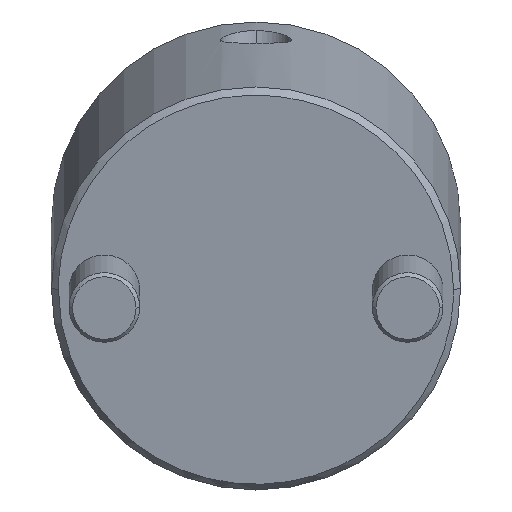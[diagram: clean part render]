
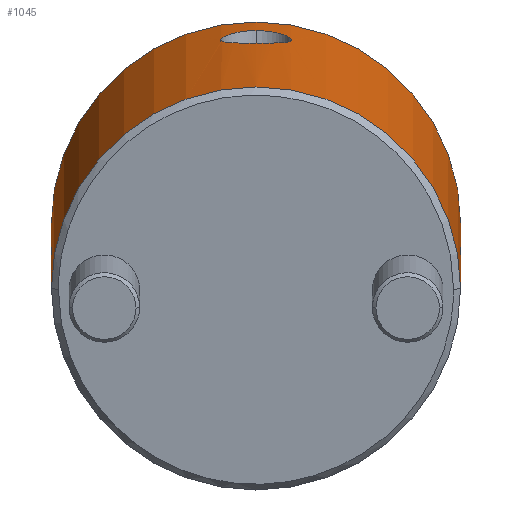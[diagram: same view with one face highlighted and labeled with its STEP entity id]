
A CAD part, front view. The second image highlights one B-rep face of the part: STEP entity #1045.
In plain terms, the highlighted cylindrical face has radius 29 mm (diameter 58 mm), a partial arc.
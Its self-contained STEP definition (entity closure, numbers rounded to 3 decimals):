
#778=CARTESIAN_POINT('Vertex',(0.,29.,1.)) ;
#781=CARTESIAN_POINT('Axis2P3D Location',(0.,0.,1.)) ;
#785=CARTESIAN_POINT('Vertex',(0.,-29.,1.)) ;
#937=CARTESIAN_POINT('Axis2P3D Location',(0.,0.,-2.75)) ;
#942=CARTESIAN_POINT('Line Origine',(0.,29.,-2.75)) ;
#946=CARTESIAN_POINT('Vertex',(0.,29.,54.)) ;
#949=CARTESIAN_POINT('Axis2P3D Location',(0.,0.,54.)) ;
#953=CARTESIAN_POINT('Vertex',(0.,-29.,54.)) ;
#956=CARTESIAN_POINT('Line Origine',(0.,-29.,-2.75)) ;
#968=CARTESIAN_POINT('Control Point',(29.,0.,46.955)) ;
#969=CARTESIAN_POINT('Control Point',(29.,0.427,46.955)) ;
#970=CARTESIAN_POINT('Control Point',(28.992,0.85,46.909)) ;
#971=CARTESIAN_POINT('Control Point',(28.977,1.272,46.813)) ;
#972=CARTESIAN_POINT('Control Point',(28.943,1.883,46.602)) ;
#973=CARTESIAN_POINT('Control Point',(28.897,2.455,46.291)) ;
#974=CARTESIAN_POINT('Control Point',(28.88,2.642,46.176)) ;
#975=CARTESIAN_POINT('Control Point',(28.845,3.003,45.926)) ;
#976=CARTESIAN_POINT('Control Point',(28.808,3.336,45.636)) ;
#977=CARTESIAN_POINT('Control Point',(28.789,3.495,45.482)) ;
#978=CARTESIAN_POINT('Control Point',(28.732,3.952,44.989)) ;
#979=CARTESIAN_POINT('Control Point',(28.677,4.325,44.429)) ;
#980=CARTESIAN_POINT('Control Point',(28.645,4.532,44.028)) ;
#981=CARTESIAN_POINT('Control Point',(28.604,4.777,43.404)) ;
#982=CARTESIAN_POINT('Control Point',(28.58,4.919,42.751)) ;
#983=CARTESIAN_POINT('Control Point',(28.573,4.955,42.53)) ;
#984=CARTESIAN_POINT('Control Point',(28.563,5.016,41.981)) ;
#985=CARTESIAN_POINT('Control Point',(28.565,5.003,41.43)) ;
#986=CARTESIAN_POINT('Control Point',(28.571,4.968,41.099)) ;
#987=CARTESIAN_POINT('Control Point',(28.596,4.826,40.344)) ;
#988=CARTESIAN_POINT('Control Point',(28.642,4.545,39.632)) ;
#989=CARTESIAN_POINT('Control Point',(28.675,4.341,39.243)) ;
#990=CARTESIAN_POINT('Control Point',(28.729,3.974,38.702)) ;
#991=CARTESIAN_POINT('Control Point',(28.786,3.524,38.229)) ;
#992=CARTESIAN_POINT('Control Point',(28.805,3.366,38.08)) ;
#993=CARTESIAN_POINT('Control Point',(28.842,3.033,37.799)) ;
#994=CARTESIAN_POINT('Control Point',(28.878,2.671,37.556)) ;
#995=CARTESIAN_POINT('Control Point',(28.895,2.482,37.444)) ;
#996=CARTESIAN_POINT('Control Point',(28.941,1.907,37.143)) ;
#997=CARTESIAN_POINT('Control Point',(28.976,1.287,36.939)) ;
#998=CARTESIAN_POINT('Control Point',(28.992,0.861,36.847)) ;
#999=CARTESIAN_POINT('Control Point',(29.,0.432,36.801)) ;
#1000=CARTESIAN_POINT('Control Point',(29.,0.,36.801)) ;
#1001=CARTESIAN_POINT('Vertex',(29.,0.,46.955)) ;
#1003=CARTESIAN_POINT('Vertex',(29.,0.,36.801)) ;
#1007=CARTESIAN_POINT('Control Point',(29.,0.,36.801)) ;
#1008=CARTESIAN_POINT('Control Point',(29.,-0.219,36.801)) ;
#1009=CARTESIAN_POINT('Control Point',(28.998,-0.438,36.813)) ;
#1010=CARTESIAN_POINT('Control Point',(28.994,-0.655,36.836)) ;
#1011=CARTESIAN_POINT('Control Point',(28.982,-1.087,36.907)) ;
#1012=CARTESIAN_POINT('Control Point',(28.962,-1.51,37.024)) ;
#1013=CARTESIAN_POINT('Control Point',(28.95,-1.717,37.093)) ;
#1014=CARTESIAN_POINT('Control Point',(28.924,-2.123,37.255)) ;
#1015=CARTESIAN_POINT('Control Point',(28.892,-2.509,37.459)) ;
#1016=CARTESIAN_POINT('Control Point',(28.875,-2.697,37.573)) ;
#1017=CARTESIAN_POINT('Control Point',(28.822,-3.237,37.94)) ;
#1018=CARTESIAN_POINT('Control Point',(28.764,-3.711,38.391)) ;
#1019=CARTESIAN_POINT('Control Point',(28.725,-3.994,38.727)) ;
#1020=CARTESIAN_POINT('Control Point',(28.672,-4.357,39.271)) ;
#1021=CARTESIAN_POINT('Control Point',(28.629,-4.626,39.868)) ;
#1022=CARTESIAN_POINT('Control Point',(28.616,-4.705,40.071)) ;
#1023=CARTESIAN_POINT('Control Point',(28.593,-4.84,40.485)) ;
#1024=CARTESIAN_POINT('Control Point',(28.578,-4.93,40.914)) ;
#1025=CARTESIAN_POINT('Control Point',(28.572,-4.963,41.133)) ;
#1026=CARTESIAN_POINT('Control Point',(28.561,-5.029,41.793)) ;
#1027=CARTESIAN_POINT('Control Point',(28.568,-4.987,42.456)) ;
#1028=CARTESIAN_POINT('Control Point',(28.581,-4.912,42.898)) ;
#1029=CARTESIAN_POINT('Control Point',(28.623,-4.67,43.756)) ;
#1030=CARTESIAN_POINT('Control Point',(28.688,-4.251,44.551)) ;
#1031=CARTESIAN_POINT('Control Point',(28.725,-4.001,44.922)) ;
#1032=CARTESIAN_POINT('Control Point',(28.802,-3.424,45.61)) ;
#1033=CARTESIAN_POINT('Control Point',(28.875,-2.721,46.15)) ;
#1034=CARTESIAN_POINT('Control Point',(28.909,-2.344,46.379)) ;
#1035=CARTESIAN_POINT('Control Point',(28.958,-1.663,46.697)) ;
#1036=CARTESIAN_POINT('Control Point',(28.987,-0.938,46.878)) ;
#1037=CARTESIAN_POINT('Control Point',(28.996,-0.626,46.93)) ;
#1038=CARTESIAN_POINT('Control Point',(29.,-0.314,46.955)) ;
#1039=CARTESIAN_POINT('Control Point',(29.,0.,46.955)) ;
#782=DIRECTION('Axis2P3D Direction',(0.,0.,1.)) ;
#938=DIRECTION('Axis2P3D Direction',(0.,-0.,1.)) ;
#939=DIRECTION('Axis2P3D XDirection',(0.,-1.,0.)) ;
#943=DIRECTION('Vector Direction',(0.,0.,1.)) ;
#950=DIRECTION('Axis2P3D Direction',(0.,-0.,1.)) ;
#957=DIRECTION('Vector Direction',(0.,0.,1.)) ;
#783=AXIS2_PLACEMENT_3D('Circle Axis2P3D',#781,#782,$) ;
#940=AXIS2_PLACEMENT_3D('Cylinder Axis2P3D',#937,#938,#939) ;
#951=AXIS2_PLACEMENT_3D('Circle Axis2P3D',#949,#950,$) ;
#962=ORIENTED_EDGE('',*,*,#948,.F.) ;
#963=ORIENTED_EDGE('',*,*,#955,.T.) ;
#964=ORIENTED_EDGE('',*,*,#960,.T.) ;
#965=ORIENTED_EDGE('',*,*,#787,.F.) ;
#1042=ORIENTED_EDGE('',*,*,#1005,.T.) ;
#1043=ORIENTED_EDGE('',*,*,#1040,.T.) ;
#1044=FACE_BOUND('',#1041,.T.) ;
#944=VECTOR('Line Direction',#943,1.) ;
#958=VECTOR('Line Direction',#957,1.) ;
#1045=ADVANCED_FACE('MANIFOLD_SOLID_BREP #1144',(#966,#1044),#941,.T.) ;
#967=B_SPLINE_CURVE_WITH_KNOTS('',5,(#968,#969,#970,#971,#972,#973,#974,#975,#976,#977,#978,#979,#980,#981,#982,#983,#984,#985,#986,#987,#988,#989,#990,#991,#992,#993,#994,#995,#996,#997,#998,#999,#1000),.UNSPECIFIED.,.F.,.U.,(6,3,3,3,3,3,3,3,3,3,6),(0.,3.07,4.614,6.168,9.302,10.865,13.188,16.279,17.83,19.379,22.437),.UNSPECIFIED.) ;
#1006=B_SPLINE_CURVE_WITH_KNOTS('',5,(#1007,#1008,#1009,#1010,#1011,#1012,#1013,#1014,#1015,#1016,#1017,#1018,#1019,#1020,#1021,#1022,#1023,#1024,#1025,#1026,#1027,#1028,#1029,#1030,#1031,#1032,#1033,#1034,#1035,#1036,#1037,#1038,#1039),.UNSPECIFIED.,.F.,.U.,(6,3,3,3,3,3,3,3,3,3,6),(0.,1.553,3.104,4.653,7.749,9.295,10.843,13.969,17.094,20.18,22.436),.UNSPECIFIED.) ;
#784=CIRCLE('generated circle',#783,29.) ;
#952=CIRCLE('generated circle',#951,29.) ;
#941=CYLINDRICAL_SURFACE('generated cylinder',#940,29.) ;
#787=EDGE_CURVE('',#779,#786,#784,.F.) ;
#948=EDGE_CURVE('',#947,#779,#945,.F.) ;
#955=EDGE_CURVE('',#947,#954,#952,.F.) ;
#960=EDGE_CURVE('',#954,#786,#959,.F.) ;
#1005=EDGE_CURVE('',#1002,#1004,#967,.T.) ;
#1040=EDGE_CURVE('',#1004,#1002,#1006,.T.) ;
#961=EDGE_LOOP('',(#962,#963,#964,#965)) ;
#1041=EDGE_LOOP('',(#1042,#1043)) ;
#966=FACE_OUTER_BOUND('',#961,.T.) ;
#945=LINE('Line',#942,#944) ;
#959=LINE('Line',#956,#958) ;
#779=VERTEX_POINT('',#778) ;
#786=VERTEX_POINT('',#785) ;
#947=VERTEX_POINT('',#946) ;
#954=VERTEX_POINT('',#953) ;
#1002=VERTEX_POINT('',#1001) ;
#1004=VERTEX_POINT('',#1003) ;
